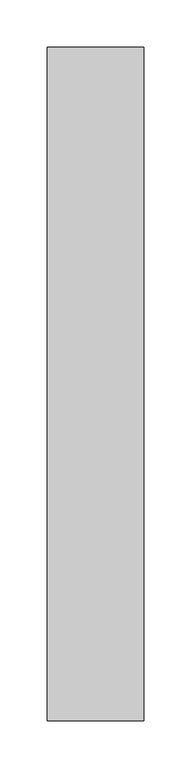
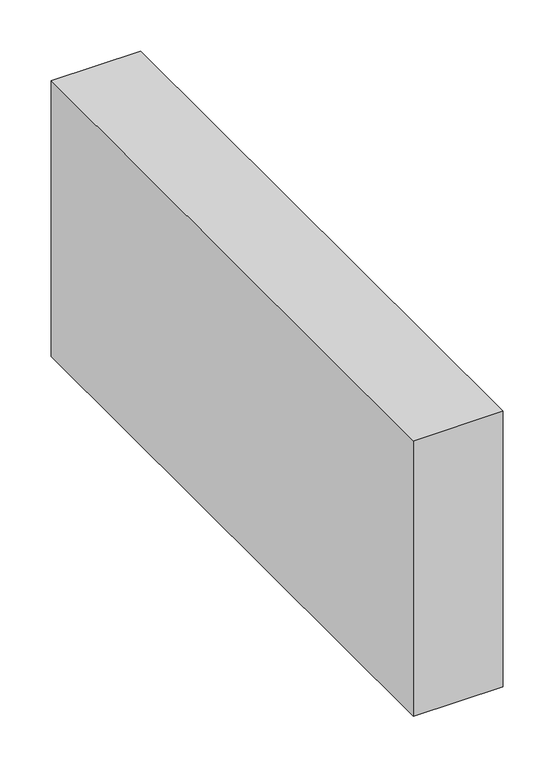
"""IFC4 building model written with IfcOpenShell, lengths in millimetres: furniture geometry, Steelcase Coalesse - Await - Table - Connector : 28D - No Tablet."""

from ifc_helpers import new_model, si_unit, frame, origin, place, context, project, spatial, polyline, outline, extrude, source, transform, mapped, element, save


def furniture_2ba87603(model_context):
    return source(origin(), model_context, "Body", "SweptSolid", [
        extrude(outline(polyline([(-613.117922, 394.0403236), (-613.117922, -317.1596764), (-714.717922, -317.1596764), (-714.717922, 394.0403236), (-613.117922, 394.0403236)])), frame((0.0, 0.0, 57.15), z_axis=(0.0, 0.0, 1.0), x_axis=(1.0, 0.0, 0.0)), (0.0, 0.0, 1.0), 330.2),
    ])


if __name__ == "__main__":
    model = new_model("IFC4")
    model_context = context("Model", 3, world=origin())
    ifc_project = project(units=[si_unit("LENGTHUNIT", "METRE", prefix="MILLI")], contexts=[model_context])
    site = spatial("IfcSite", under=ifc_project)
    building = spatial("IfcBuilding", under=site)
    placement = place(None, origin())
    furniture_shape = furniture_2ba87603(model_context)
    element("IfcFurniture", 1, ObjectType="Steelcase Coalesse - Await - Table - Connector : 28D - No Tablet", at=placement, inside=building, context=model_context, shape_type="MappedRepresentation", body=[
        mapped(furniture_shape, transform((0.0, 0.0, 0.0), x_axis=(1.0, 0.0, 0.0), y_axis=(0.0, 1.0, 0.0), z_axis=(0.0, 0.0, 1.0))),
    ])
    save(model, "model.ifc")
